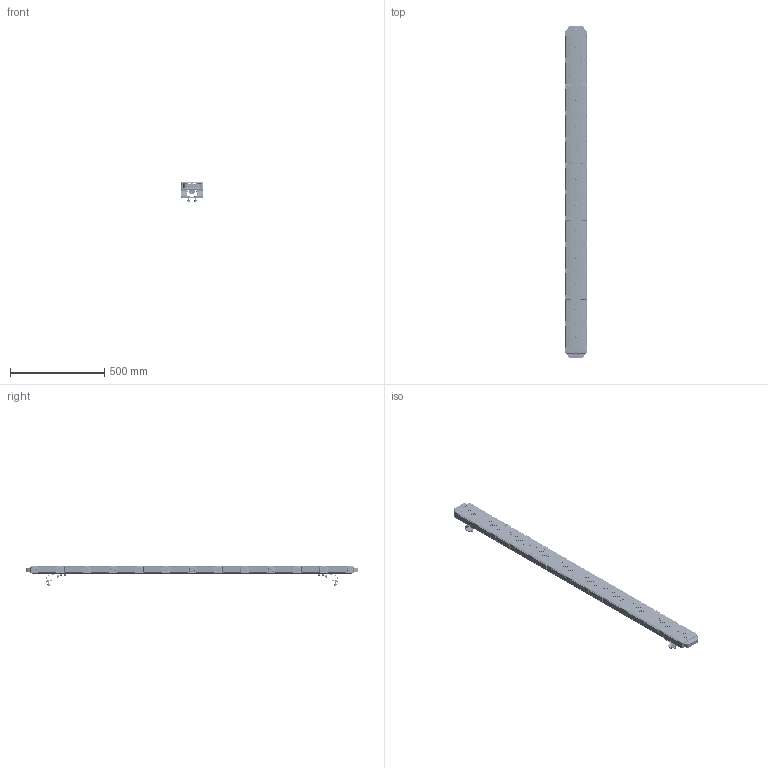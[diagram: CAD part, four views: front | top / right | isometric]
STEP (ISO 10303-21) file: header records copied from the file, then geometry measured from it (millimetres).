
FILE_DESCRIPTION((''),'2;1');
FILE_NAME('0-48-ASM_1_ASM','2021-12-27T14:30:10',('dell'),(''),'CREO PARAMETRIC BY PTC INC, 2021284','CREO PARAMETRIC BY PTC INC, 2021284','');
FILE_SCHEMA(('CONFIG_CONTROL_DESIGN','SHAPE_APPEARANCE_LAYERS_GROUPS'));
Products named in the file (233): SHANG_GAI; XIA_XING_CAI-48; M3X5_PING_BAO_TOU_LUO_DING; L200_P1; PCB_SF-L200-V1_02; L200_S2; PCB_L200-10LED-V1_02_1; PCB_L200-10LED-V1_02_2; PCB_L200-10LED-V1_02_3; PCB_L200-10LED-V1_02_4; PCB_L200-10LED-V1_02_5; PCB_L200-10LED-V1_02_6; PCB_L200-10LED-V1_02_7; PCB_L200-10LED-V1_02_8; PCB_L200-10LED-V1_02_9; PCB_L200-10LED-V1_02_10; PCB_L200-10LED-V1_02_11; PCB_L200-10LED-V1_02_12; PCB_L200-10LED-V1_02_13; PCB_L200-10LED-V1_02_14; PCB_L200-10LED-V1_02_15; PCB_L200-10LED-V1_02_16; PCB_L200-10LED-V1_02_17; PCB_L200-10LED-V1_02_18; PCB_L200-10LED-V1_02_19; PCB_L200-10LED-V1_02_ASM; L200_P2; L200_S1; L200_M2; L200_M1; 0-L200-ASM_ASM; CE_GAI; CE_GAI_GU_DING_BAN_F1; GB-T818_H-2000_M3X8; GB-T818_H-2000_M5X12; 0-CE_ZU_JIAN-ASM_ASM; QIAN_HOU_TOU_JING; QIAN_HOU_GU_DING_ZUO; LENS-4; QIAN_HOU_DENG_BAN_PCB_1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
Assembly tree (291 placements, depth 5):
  0-48-ASM_1_ASM
    SHANG_GAI  x7
    XIA_XING_CAI-48
    0-CE_ZU_JIAN-ASM_ASM  x2
      0-L200-ASM_ASM
        M3X5_PING_BAO_TOU_LUO_DING  x2
        L200_P1
        PCB_SF-L200-V1_02
        L200_S2
        PCB_L200-10LED-V1_02_ASM
          PCB_L200-10LED-V1_02_1
          PCB_L200-10LED-V1_02_2
          PCB_L200-10LED-V1_02_3
          PCB_L200-10LED-V1_02_4
          PCB_L200-10LED-V1_02_5
          PCB_L200-10LED-V1_02_6
          PCB_L200-10LED-V1_02_7
          PCB_L200-10LED-V1_02_8
          PCB_L200-10LED-V1_02_9
          PCB_L200-10LED-V1_02_10
          PCB_L200-10LED-V1_02_11
          PCB_L200-10LED-V1_02_12
          PCB_L200-10LED-V1_02_13
          PCB_L200-10LED-V1_02_14
          PCB_L200-10LED-V1_02_15
          PCB_L200-10LED-V1_02_16
          PCB_L200-10LED-V1_02_17
          PCB_L200-10LED-V1_02_18
          PCB_L200-10LED-V1_02_19
        L200_P2
        L200_S1
        L200_M2
        L200_M1
      CE_GAI
      CE_GAI_GU_DING_BAN_F1
      GB-T818_H-2000_M3X8
      GB-T818_H-2000_M5X12
    GB-T818_H-2000_M5X12  x8
    0-QIAN_HOU_DENG_ZU-ASM_ASM  x14
      QIAN_HOU_TOU_JING
      QIAN_HOU_GU_DING_ZUO
      LENS-4
      QIAN_HOU_DENG_BAN_PCB_ASM
        QIAN_HOU_DENG_BAN_PCB_1
        QIAN_HOU_DENG_BAN_PCB_2
        QIAN_HOU_DENG_BAN_PCB_3
        QIAN_HOU_DENG_BAN_PCB_4
        QIAN_HOU_DENG_BAN_PCB_5
        QIAN_HOU_DENG_BAN_PCB_6
        QIAN_HOU_DENG_BAN_PCB_7
        QIAN_HOU_DENG_BAN_PCB_8
        QIAN_HOU_DENG_BAN_PCB_9
      XI_JIAO_PIAN_ASM
        XI_JIAO_PIAN_1
        XI_JIAO_PIAN_2
      GB859-87_M4
    0-JIAO_JIA-ASM_ASM  x2
      JIAO_JIA_ASM
        JIAO_JIA_1
        JIAO_JIA_2
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Bounding box: 120.19 x 1765.4 x 106.49 mm (x, y, z)
Volume: 3065967.7 mm3; surface area: 2973279.3 mm2
Topology: 670 solids, 672 shells, 46736 faces, 120631 edges, 74873 vertices
Faces by surface type: plane 22359, bspline 10610, cylinder 9345, cone 1688, torus 1010, extrusion 874, sphere 442, revolution 408
Entity records: 325694 total; most frequent: CARTESIAN_POINT 117997, ORIENTED_EDGE 35310, DIRECTION 29154, EDGE_CURVE 17664, PRESENTATION_STYLE_ASSIGNMENT 14399, STYLED_ITEM 14343, CURVE_STYLE 14298, VERTEX_POINT 11307
